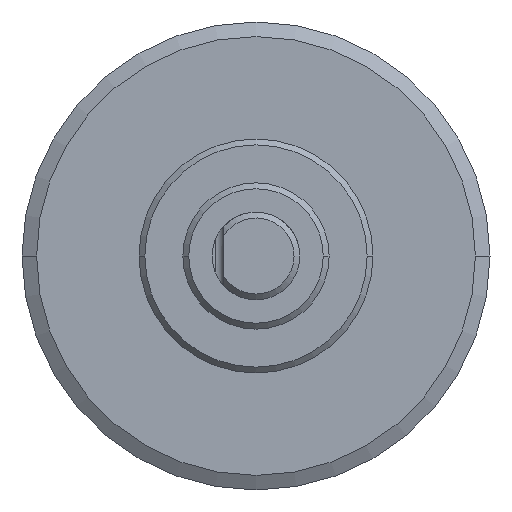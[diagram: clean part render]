
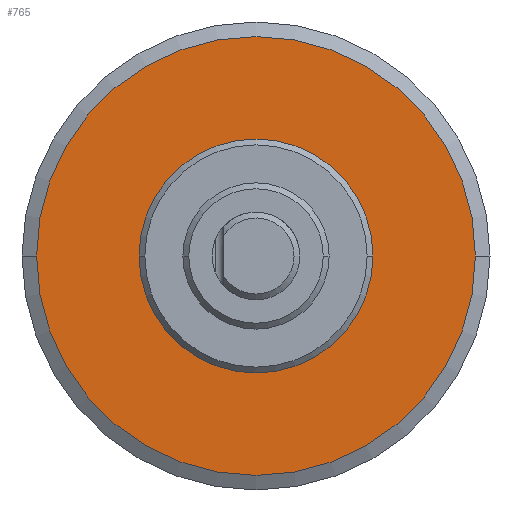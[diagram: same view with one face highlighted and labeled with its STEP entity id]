
A CAD part, left-side view. The second image highlights one B-rep face of the part: STEP entity #765.
In plain terms, the highlighted planar face has unit normal (-1, 0, 0).
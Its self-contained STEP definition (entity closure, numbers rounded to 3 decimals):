
#177=CARTESIAN_POINT('',(-7.7,0.,0.));
#178=DIRECTION('',(1.,0.,0.));
#179=DIRECTION('',(0.,-1.,0.));
#180=AXIS2_PLACEMENT_3D('',#177,#178,#179);
#182=CARTESIAN_POINT('',(-7.7,0.,0.));
#183=DIRECTION('',(1.,0.,0.));
#184=DIRECTION('',(0.,0.,-1.));
#185=AXIS2_PLACEMENT_3D('',#182,#183,#184);
#187=CARTESIAN_POINT('',(-7.7,0.,0.));
#188=DIRECTION('',(1.,0.,0.));
#189=DIRECTION('',(0.,1.,0.));
#190=AXIS2_PLACEMENT_3D('',#187,#188,#189);
#192=CARTESIAN_POINT('',(-7.7,0.,0.));
#193=DIRECTION('',(-1.,0.,0.));
#194=DIRECTION('',(0.,-1.,0.));
#195=AXIS2_PLACEMENT_3D('',#192,#193,#194);
#197=CARTESIAN_POINT('',(-7.7,0.,0.));
#198=DIRECTION('',(-1.,0.,0.));
#199=DIRECTION('',(0.,1.,0.));
#200=AXIS2_PLACEMENT_3D('',#197,#198,#199);
#426=CARTESIAN_POINT('',(-7.7,-3.75,0.));
#427=VERTEX_POINT('',#426);
#428=CARTESIAN_POINT('',(-7.7,0.,
-3.75));
#429=VERTEX_POINT('',#428);
#430=CARTESIAN_POINT('',(-7.7,3.75,0.));
#431=VERTEX_POINT('',#430);
#436=CARTESIAN_POINT('',(-7.7,-2.,0.));
#437=CARTESIAN_POINT('',(-7.7,2.,0.));
#438=VERTEX_POINT('',#436);
#439=VERTEX_POINT('',#437);
#748=CARTESIAN_POINT('',(-7.7,0.,0.));
#749=DIRECTION('',(1.,0.,0.));
#750=DIRECTION('',(0.,-1.,0.));
#751=AXIS2_PLACEMENT_3D('',#748,#749,#750);
#752=PLANE('',#751);
#754=ORIENTED_EDGE('',*,*,#753,.T.);
#756=ORIENTED_EDGE('',*,*,#755,.T.);
#758=ORIENTED_EDGE('',*,*,#757,.T.);
#759=EDGE_LOOP('',(#754,#756,#758));
#760=FACE_OUTER_BOUND('',#759,.F.);
#761=ORIENTED_EDGE('',*,*,#727,.T.);
#762=ORIENTED_EDGE('',*,*,#742,.T.);
#763=EDGE_LOOP('',(#761,#762));
#764=FACE_BOUND('',#763,.F.);
#181=CIRCLE('',#180,3.75);
#186=CIRCLE('',#185,3.75);
#191=CIRCLE('',#190,3.75);
#196=CIRCLE('',#195,2.);
#201=CIRCLE('',#200,2.);
#727=EDGE_CURVE('',#438,#439,#196,.T.);
#742=EDGE_CURVE('',#439,#438,#201,.T.);
#753=EDGE_CURVE('',#427,#429,#181,.T.);
#755=EDGE_CURVE('',#429,#431,#186,.T.);
#757=EDGE_CURVE('',#431,#427,#191,.T.);
#765=ADVANCED_FACE('',(#760,#764),#752,.F.);
